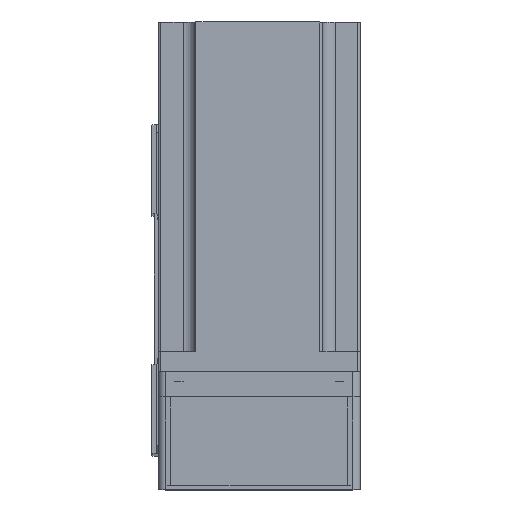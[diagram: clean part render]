
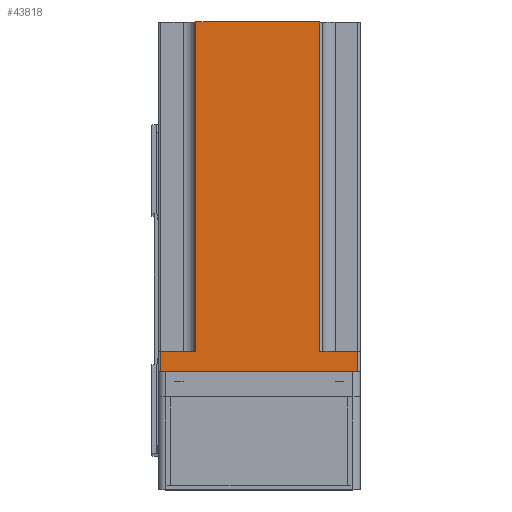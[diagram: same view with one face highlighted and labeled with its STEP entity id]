
A CAD part, top view. The second image highlights one B-rep face of the part: STEP entity #43818.
In plain terms, the highlighted planar face has unit normal (0, 0, 1) as drawn and (-1, 0, 0) by its records, which use the part's own axes.
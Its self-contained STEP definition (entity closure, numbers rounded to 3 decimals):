
#606 = CARTESIAN_POINT ( 'NONE',  ( -40., -24., 138.3 ) ) ;
#781 = DIRECTION ( 'NONE',  ( 0., 0., -1. ) ) ;
#1618 = VECTOR ( 'NONE', #43223, 1000. ) ;
#2127 = ORIENTED_EDGE ( 'NONE', *, *, #3651, .T. ) ;
#2154 = DIRECTION ( 'NONE',  ( 0., 0., 1. ) ) ;
#2223 = VERTEX_POINT ( 'NONE', #33932 ) ;
#2439 = LINE ( 'NONE', #10915, #29790 ) ;
#3085 = DIRECTION ( 'NONE',  ( 0., -1., 0. ) ) ;
#3651 = EDGE_CURVE ( 'NONE', #41138, #20365, #30982, .T. ) ;
#3927 = PLANE ( 'NONE',  #18561 ) ;
#4492 = CARTESIAN_POINT ( 'NONE',  ( -40., -40., 8. ) ) ;
#5521 = EDGE_CURVE ( 'NONE', #24028, #41138, #13714, .T. ) ;
#6999 = LINE ( 'NONE', #17386, #43766 ) ;
#7789 = ORIENTED_EDGE ( 'NONE', *, *, #16382, .T. ) ;
#9238 = DIRECTION ( 'NONE',  ( 0., -1., 0. ) ) ;
#10380 = DIRECTION ( 'NONE',  ( 0., 0., 1. ) ) ;
#10915 = CARTESIAN_POINT ( 'NONE',  ( -40., 25., 8. ) ) ;
#11346 = EDGE_LOOP ( 'NONE', ( #39388, #25513, #39246, #14625, #18541, #7789, #14852, #2127 ) ) ;
#12139 = EDGE_CURVE ( 'NONE', #25155, #23107, #33093, .T. ) ;
#12401 = LINE ( 'NONE', #4492, #39791 ) ;
#13714 = LINE ( 'NONE', #45779, #31575 ) ;
#14552 = LINE ( 'NONE', #24653, #32397 ) ;
#14625 = ORIENTED_EDGE ( 'NONE', *, *, #23307, .F. ) ;
#14852 = ORIENTED_EDGE ( 'NONE', *, *, #5521, .T. ) ;
#16382 = EDGE_CURVE ( 'NONE', #16648, #24028, #40669, .T. ) ;
#16648 = VERTEX_POINT ( 'NONE', #19820 ) ;
#17386 = CARTESIAN_POINT ( 'NONE',  ( -40., -24., 138.3 ) ) ;
#18541 = ORIENTED_EDGE ( 'NONE', *, *, #24370, .T. ) ;
#18561 = AXIS2_PLACEMENT_3D ( 'NONE', #43449, #22095, #781 ) ;
#19208 = CARTESIAN_POINT ( 'NONE',  ( -40., -39., 0. ) ) ;
#19820 = CARTESIAN_POINT ( 'NONE',  ( -40., 39., 8. ) ) ;
#20064 = CARTESIAN_POINT ( 'NONE',  ( -40., -39., 138.3 ) ) ;
#20365 = VERTEX_POINT ( 'NONE', #22360 ) ;
#20380 = VECTOR ( 'NONE', #2154, 1000. ) ;
#20505 = CARTESIAN_POINT ( 'NONE',  ( -40., 25., 8. ) ) ;
#21883 = CARTESIAN_POINT ( 'NONE',  ( -40., 39., 138.3 ) ) ;
#22095 = DIRECTION ( 'NONE',  ( 1., 0., 0. ) ) ;
#22213 = DIRECTION ( 'NONE',  ( 0., -1., 0. ) ) ;
#22360 = CARTESIAN_POINT ( 'NONE',  ( -40., -39., 8. ) ) ;
#22391 = CARTESIAN_POINT ( 'NONE',  ( -40., 25., 138.3 ) ) ;
#23107 = VERTEX_POINT ( 'NONE', #606 ) ;
#23307 = EDGE_CURVE ( 'NONE', #46169, #25155, #2439, .T. ) ;
#23576 = VECTOR ( 'NONE', #9238, 1000. ) ;
#24028 = VERTEX_POINT ( 'NONE', #33415 ) ;
#24370 = EDGE_CURVE ( 'NONE', #46169, #16648, #14552, .T. ) ;
#24653 = CARTESIAN_POINT ( 'NONE',  ( -40., 40., 8. ) ) ;
#25067 = DIRECTION ( 'NONE',  ( 0., 0., 1. ) ) ;
#25155 = VERTEX_POINT ( 'NONE', #22391 ) ;
#25513 = ORIENTED_EDGE ( 'NONE', *, *, #33705, .T. ) ;
#29790 = VECTOR ( 'NONE', #25067, 1000. ) ;
#30982 = LINE ( 'NONE', #20064, #20380 ) ;
#31575 = VECTOR ( 'NONE', #3085, 1000. ) ;
#31747 = FACE_OUTER_BOUND ( 'NONE', #11346, .T. ) ;
#32397 = VECTOR ( 'NONE', #35427, 1000. ) ;
#33093 = LINE ( 'NONE', #34142, #23576 ) ;
#33415 = CARTESIAN_POINT ( 'NONE',  ( -40., 39., 0. ) ) ;
#33705 = EDGE_CURVE ( 'NONE', #2223, #23107, #6999, .T. ) ;
#33932 = CARTESIAN_POINT ( 'NONE',  ( -40., -24., 8. ) ) ;
#34142 = CARTESIAN_POINT ( 'NONE',  ( -40., -40., 138.3 ) ) ;
#35427 = DIRECTION ( 'NONE',  ( 0., 1., 0. ) ) ;
#39246 = ORIENTED_EDGE ( 'NONE', *, *, #12139, .F. ) ;
#39388 = ORIENTED_EDGE ( 'NONE', *, *, #45873, .F. ) ;
#39791 = VECTOR ( 'NONE', #22213, 1000. ) ;
#40669 = LINE ( 'NONE', #21883, #1618 ) ;
#41138 = VERTEX_POINT ( 'NONE', #19208 ) ;
#43223 = DIRECTION ( 'NONE',  ( 0., 0., -1. ) ) ;
#43449 = CARTESIAN_POINT ( 'NONE',  ( -40., -40., 138.3 ) ) ;
#43766 = VECTOR ( 'NONE', #10380, 1000. ) ;
#43818 = ADVANCED_FACE ( 'NONE', ( #31747 ), #3927, .F. ) ;
#45779 = CARTESIAN_POINT ( 'NONE',  ( -40., -40., 0. ) ) ;
#45873 = EDGE_CURVE ( 'NONE', #2223, #20365, #12401, .T. ) ;
#46169 = VERTEX_POINT ( 'NONE', #20505 ) ;
